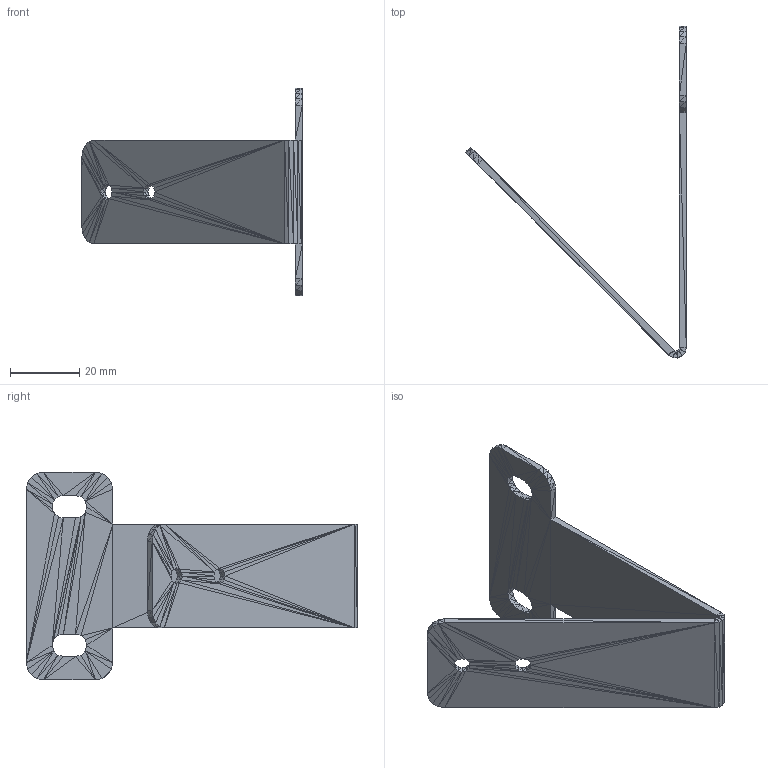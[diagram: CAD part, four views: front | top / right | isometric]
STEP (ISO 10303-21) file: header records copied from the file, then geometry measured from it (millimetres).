
FILE_DESCRIPTION((''),'2;1');
FILE_NAME('034607', '2025-07-25T05:18:37', (''), (''), 'ImageToStl.com STEP Converter','', '');
FILE_SCHEMA(('AUTOMOTIVE_DESIGN_CC2'));
Length unit declared in the file: metre
Products named in the file (1): product0
Bounding box: 63.64 x 95.72 x 60 mm (x, y, z)
Surface area: 13058.8 mm2 (no closed solid volume)
Topology: 0 solids, 400 shells, 400 faces, 1200 edges, 194 vertices
Faces by surface type: plane 400
Entity records: 9216 total; most frequent: DIRECTION 2002, ORIENTED_EDGE 1200, EDGE_CURVE 1200, LINE 1200, VECTOR 1200, AXIS2_PLACEMENT_3D 401, FACE_SURFACE 400, PLANE 400
